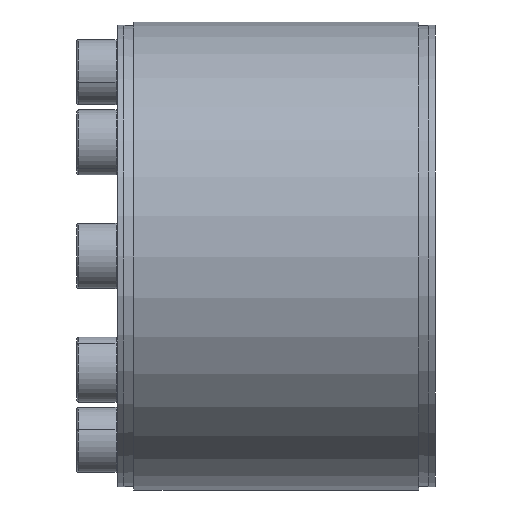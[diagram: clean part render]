
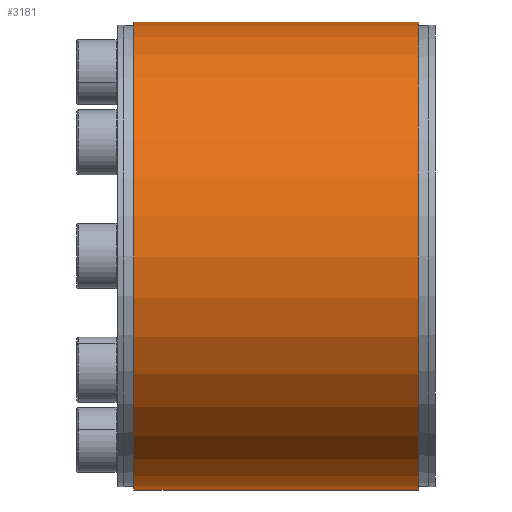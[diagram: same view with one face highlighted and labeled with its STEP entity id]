
A CAD part, front view. The second image highlights one B-rep face of the part: STEP entity #3181.
In plain terms, the highlighted cylindrical face has radius 57.5 mm (diameter 115 mm), a partial arc.
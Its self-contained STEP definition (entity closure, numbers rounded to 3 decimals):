
#13 = DIRECTION ( 'NONE',  ( -1., 0., 0. ) ) ;
#21 = VERTEX_POINT ( 'NONE', #448 ) ;
#25 = DIRECTION ( 'NONE',  ( -1., 0., 0. ) ) ;
#100 = CYLINDRICAL_SURFACE ( 'NONE', #1028, 57.5 ) ;
#285 = VECTOR ( 'NONE', #2820, 1000. ) ;
#402 = ORIENTED_EDGE ( 'NONE', *, *, #3169, .T. ) ;
#448 = CARTESIAN_POINT ( 'NONE',  ( 74., 0.5, 57.498 ) ) ;
#493 = DIRECTION ( 'NONE',  ( 0., 0., 1. ) ) ;
#531 = CIRCLE ( 'NONE', #2058, 57.5 ) ;
#905 = FACE_OUTER_BOUND ( 'NONE', #1675, .T. ) ;
#935 = DIRECTION ( 'NONE',  ( 0., 0., 1. ) ) ;
#951 = VECTOR ( 'NONE', #1331, 1000. ) ;
#1028 = AXIS2_PLACEMENT_3D ( 'NONE', #2359, #1145, #493 ) ;
#1145 = DIRECTION ( 'NONE',  ( -1., 0., 0. ) ) ;
#1331 = DIRECTION ( 'NONE',  ( -1., 0., 0. ) ) ;
#1675 = EDGE_LOOP ( 'NONE', ( #3602, #3966, #2733, #402 ) ) ;
#1820 = CARTESIAN_POINT ( 'NONE',  ( 74., 0., 0. ) ) ;
#1964 = CARTESIAN_POINT ( 'NONE',  ( 0., -0.5, 57.498 ) ) ;
#2014 = VERTEX_POINT ( 'NONE', #2759 ) ;
#2058 = AXIS2_PLACEMENT_3D ( 'NONE', #2757, #25, #935 ) ;
#2059 = CARTESIAN_POINT ( 'NONE',  ( 4., 0.5, 57.498 ) ) ;
#2180 = CARTESIAN_POINT ( 'NONE',  ( 4., -0.5, 57.498 ) ) ;
#2235 = CARTESIAN_POINT ( 'NONE',  ( 0., 0.5, 57.498 ) ) ;
#2343 = AXIS2_PLACEMENT_3D ( 'NONE', #1820, #13, #2382 ) ;
#2359 = CARTESIAN_POINT ( 'NONE',  ( 0., 0., 0. ) ) ;
#2382 = DIRECTION ( 'NONE',  ( 0., 0., 1. ) ) ;
#2733 = ORIENTED_EDGE ( 'NONE', *, *, #3521, .T. ) ;
#2757 = CARTESIAN_POINT ( 'NONE',  ( 4., 0., 0. ) ) ;
#2759 = CARTESIAN_POINT ( 'NONE',  ( 74., -0.5, 57.498 ) ) ;
#2820 = DIRECTION ( 'NONE',  ( 1., 0., 0. ) ) ;
#2985 = VERTEX_POINT ( 'NONE', #2180 ) ;
#3006 = EDGE_CURVE ( 'NONE', #3545, #21, #3843, .T. ) ;
#3169 = EDGE_CURVE ( 'NONE', #2014, #2985, #3448, .T. ) ;
#3181 = ADVANCED_FACE ( 'NONE', ( #905 ), #100, .T. ) ;
#3448 = LINE ( 'NONE', #1964, #951 ) ;
#3487 = EDGE_CURVE ( 'NONE', #3545, #2985, #531, .T. ) ;
#3521 = EDGE_CURVE ( 'NONE', #21, #2014, #3899, .T. ) ;
#3545 = VERTEX_POINT ( 'NONE', #2059 ) ;
#3602 = ORIENTED_EDGE ( 'NONE', *, *, #3487, .F. ) ;
#3843 = LINE ( 'NONE', #2235, #285 ) ;
#3899 = CIRCLE ( 'NONE', #2343, 57.5 ) ;
#3966 = ORIENTED_EDGE ( 'NONE', *, *, #3006, .T. ) ;
